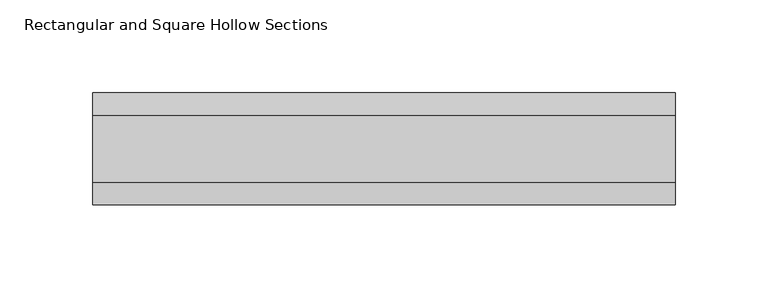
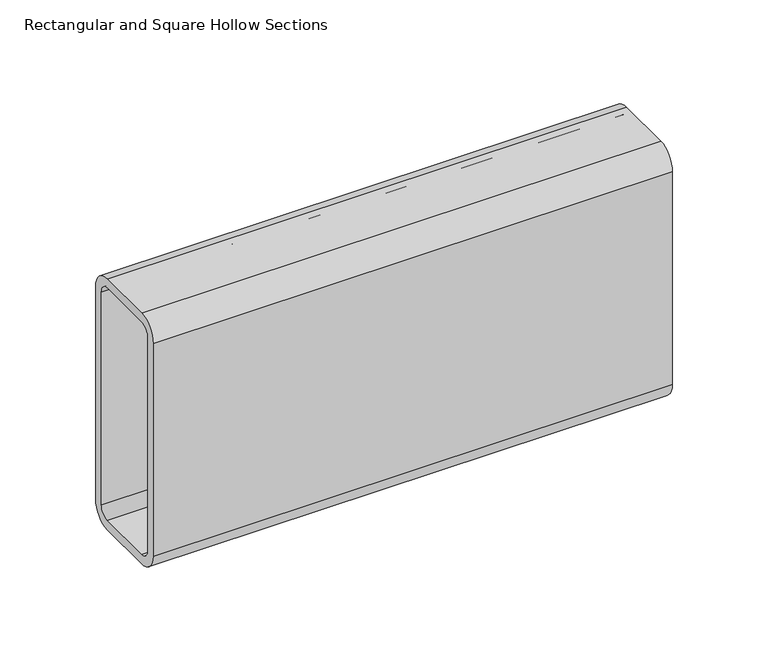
"""IFC4 building model written with IfcOpenShell, lengths in millimetres: beam geometry, Rectangular and Square Hollow Sections : TREC160x60x6."""

import ifcopenshell
import ifcopenshell.guid

model = None  # the IFC model being written
_history = None  # IfcOwnerHistory: only IFC2X3 demands one
_inside = {}  # id of a spatial element -> (the spatial element, [elements in it])
_under = {}  # id of a project, library or spatial element -> (it, [spatial elements below it])
_declared = {}  # id of a project -> (the project, [libraries it declares])
_typed = {}  # id of a type object -> (the type object, [elements of that type])
_made_of = {}  # id of a material, layer set ... -> (it, [elements and type objects made of it])


def new_model(schema):
    """Start an empty IFC model of exactly this schema.

    Asked for "IFC4X3", IfcOpenShell would pick the latest addendum, in which some entities
    have other attributes; the version numbers below select the first issue.
    IFC2X3 requires an IfcOwnerHistory on every rooted entity: one is made here for all.
    """
    global model, _history
    if schema == "IFC4X3":
        model = ifcopenshell.file(schema_version=(4, 3, 0, 0))
    else:
        model = ifcopenshell.file(schema=schema)
    _inside.clear()
    _under.clear()
    _declared.clear()
    _typed.clear()
    _made_of.clear()
    _history = None
    if model.schema == "IFC2X3":
        org = make("IfcOrganization", Name="unknown")
        user = make(
            "IfcPersonAndOrganization",
            ThePerson=make("IfcPerson", FamilyName="unknown"),
            TheOrganization=org,
        )
        app = make(
            "IfcApplication",
            ApplicationDeveloper=org,
            Version="unknown",
            ApplicationFullName="unknown",
            ApplicationIdentifier="unknown",
        )
        _history = make(
            "IfcOwnerHistory",
            OwningUser=user,
            OwningApplication=app,
            ChangeAction="ADDED",
            CreationDate=0,
        )
    return model


def make(cls, **values):
    """One entity of the class cls with the attributes given. An attribute that is None is left unset."""
    return model.create_entity(
        cls, **{name: value for name, value in values.items() if value is not None}
    )


def rooted(cls, **values):
    """An entity with a GlobalId (a new one), such as an element, a storey or a relation."""
    return make(cls, GlobalId=ifcopenshell.guid.new(), OwnerHistory=_history, **values)


def si_unit(unit_type, name, prefix=None):
    """IfcSIUnit, for example si_unit("LENGTHUNIT", "METRE", prefix="MILLI")."""
    return make("IfcSIUnit", UnitType=unit_type, Prefix=prefix, Name=name)


def assignment(units):
    """IfcUnitAssignment: the units of a project."""
    return None if units is None else make("IfcUnitAssignment", Units=units)


def point(xyz):
    """IfcCartesianPoint."""
    return None if xyz is None else make("IfcCartesianPoint", Coordinates=xyz)


def direction(xyz):
    """IfcDirection."""
    return None if xyz is None else make("IfcDirection", DirectionRatios=xyz)


def frame(location, z_axis=None, x_axis=None):
    """IfcAxis2Placement3D, a coordinate frame: its origin and axes. An axis left out is left unset."""
    return make(
        "IfcAxis2Placement3D",
        Location=point(location),
        Axis=direction(z_axis),
        RefDirection=direction(x_axis),
    )


def frame_2d(location, x_axis=None):
    """IfcAxis2Placement2D, a coordinate frame in the plane: its origin and x axis."""
    return make(
        "IfcAxis2Placement2D", Location=point(location), RefDirection=direction(x_axis)
    )


def origin():
    """The frame at (0, 0, 0) with its axes left unset."""
    return frame((0.0, 0.0, 0.0))


def place(relative_to, where):
    """IfcLocalPlacement: puts the frame where relative to a parent placement (None: the world)."""
    return make(
        "IfcLocalPlacement", PlacementRelTo=relative_to, RelativePlacement=where
    )


def context(
    kind, dimensions, precision=None, world=None, true_north=None, identifier=None
):
    """IfcGeometricRepresentationContext, for example the 3D "Model" context."""
    return make(
        "IfcGeometricRepresentationContext",
        ContextIdentifier=identifier,
        ContextType=kind,
        CoordinateSpaceDimension=dimensions,
        Precision=precision,
        WorldCoordinateSystem=world,
        TrueNorth=true_north,
    )


def project(units=None, contexts=None):
    """IfcProject with its units and contexts."""
    return rooted(
        "IfcProject",
        Name="project",
        RepresentationContexts=contexts,
        UnitsInContext=assignment(units),
    )


def spatial(cls, under=None, at=None, **own):
    """A site, building, storey or space (cls), placed at a placement, below another one or the project."""
    s = rooted(cls, ObjectPlacement=at, **own)
    if under is not None:
        _under.setdefault(under.id(), (under, []))[1].append(s)
    return s


def polyline(points):
    """IfcPolyline through the points."""
    return make("IfcPolyline", Points=[point(p) for p in points])


def circle_curve(where, radius):
    """IfcCircle in the frame where."""
    return make("IfcCircle", Position=where, Radius=radius)


def trimmed(basis, trim1, trim2, sense, master):
    """IfcTrimmedCurve: the piece of a basis curve between two trims."""
    return make(
        "IfcTrimmedCurve",
        BasisCurve=basis,
        Trim1=trim1,
        Trim2=trim2,
        SenseAgreement=sense,
        MasterRepresentation=master,
    )


def segment(curve, same_sense, transition):
    """IfcCompositeCurveSegment."""
    return make(
        "IfcCompositeCurveSegment",
        Transition=transition,
        SameSense=same_sense,
        ParentCurve=curve,
    )


def composite_curve(segments, self_intersect=None):
    """IfcCompositeCurve: segments joined end to end."""
    return make("IfcCompositeCurve", Segments=segments, SelfIntersect=self_intersect)


def outline(outer, holes=None, kind="AREA"):
    """IfcArbitraryClosedProfileDef: a profile drawn as a closed curve; with holes, ...WithVoids."""
    if holes is None:
        return make("IfcArbitraryClosedProfileDef", ProfileType=kind, OuterCurve=outer)
    return make(
        "IfcArbitraryProfileDefWithVoids",
        ProfileType=kind,
        OuterCurve=outer,
        InnerCurves=holes,
    )


def extrude(swept, where, along, depth):
    """IfcExtrudedAreaSolid: the profile swept, set in the frame where, extruded along a direction by depth."""
    return make(
        "IfcExtrudedAreaSolid",
        SweptArea=swept,
        Position=where,
        ExtrudedDirection=direction(along),
        Depth=depth,
    )


def shape(context_of_items, identifier, shape_type, items):
    """IfcShapeRepresentation: the items that make up one representation, for example the "Body"."""
    return make(
        "IfcShapeRepresentation",
        ContextOfItems=context_of_items,
        RepresentationIdentifier=identifier,
        RepresentationType=shape_type,
        Items=items,
    )


def source(mapping_origin, context_of_items, identifier, shape_type, items):
    """IfcRepresentationMap: a shape defined once, which mapped items show again and again."""
    return make(
        "IfcRepresentationMap",
        MappingOrigin=mapping_origin,
        MappedRepresentation=shape(context_of_items, identifier, shape_type, items),
    )


def transform(
    local_origin,
    x_axis=None,
    y_axis=None,
    z_axis=None,
    scale=None,
    scale2=None,
    scale3=None,
    uniform=True,
):
    """IfcCartesianTransformationOperator3D, or its non-uniform kind. x_axis, y_axis, z_axis: its Axis1, 2, 3."""
    if uniform:
        return make(
            "IfcCartesianTransformationOperator3D",
            Axis1=direction(x_axis),
            Axis2=direction(y_axis),
            LocalOrigin=point(local_origin),
            Scale=scale,
            Axis3=direction(z_axis),
        )
    return make(
        "IfcCartesianTransformationOperator3DnonUniform",
        Axis1=direction(x_axis),
        Axis2=direction(y_axis),
        LocalOrigin=point(local_origin),
        Scale=scale,
        Axis3=direction(z_axis),
        Scale2=scale2,
        Scale3=scale3,
    )


def mapped(mapping_source, mapping_target):
    """IfcMappedItem: shows the shape of a source again, moved by a transform."""
    return make(
        "IfcMappedItem", MappingSource=mapping_source, MappingTarget=mapping_target
    )


def made_of(thing, what):
    """Note that an element or type object is made of a material, layer set ...; save() writes the relation."""
    if what is not None:
        _made_of.setdefault(what.id(), (what, []))[1].append(thing)
    return thing


def element(
    cls,
    number,
    at=None,
    inside=None,
    cuts=None,
    type_object=None,
    material=None,
    context=None,
    identifier="Body",
    shape_type=None,
    held_by="IfcProductDefinitionShape",
    body=None,
    shapes=None,
    **own,
):
    """One element of the class cls, such as IfcWall. Its Tag is "e" and its number.

    at: its placement. inside: the storey or other place that contains it. cuts: it is an
    opening in that element (IfcRelVoidsElement). A single representation is given by context,
    identifier, shape_type and body (its items); several are given by shapes. held_by: the class
    of the entity that holds the representations. save() writes the other relations.
    """
    e = rooted(cls, Tag="e%d" % number, ObjectPlacement=at, **own)
    if body is not None:
        shapes = [shape(context, identifier, shape_type, body)]
    if shapes is not None:
        e.Representation = make(held_by, Representations=shapes)
    if inside is not None:
        _inside.setdefault(inside.id(), (inside, []))[1].append(e)
    if cuts is not None:
        rooted(
            "IfcRelVoidsElement", RelatingBuildingElement=cuts, RelatedOpeningElement=e
        )
    if type_object is not None:
        _typed.setdefault(type_object.id(), (type_object, []))[1].append(e)
    return made_of(e, material)


def aggregate(whole, parts):
    """IfcRelAggregates: a whole, such as a stair, and the parts it consists of."""
    return rooted("IfcRelAggregates", RelatingObject=whole, RelatedObjects=parts)


def save(model, path):
    """Write the relations noted so far, then the file.

    IfcRelAggregates (storeys below a building ...), IfcRelContainedInSpatialStructure (elements
    in a storey), IfcRelDefinesByType, IfcRelAssociatesMaterial and IfcRelDeclares: one each for
    every whole, place, type object, material and project.
    """
    for whole, parts in _under.values():
        aggregate(whole, parts)
    for where, things in _inside.values():
        rooted(
            "IfcRelContainedInSpatialStructure",
            RelatedElements=things,
            RelatingStructure=where,
        )
    for kind, things in _typed.values():
        rooted("IfcRelDefinesByType", RelatedObjects=things, RelatingType=kind)
    for what, things in _made_of.values():
        rooted("IfcRelAssociatesMaterial", RelatedObjects=things, RelatingMaterial=what)
    for by, libraries in _declared.values():
        rooted("IfcRelDeclares", RelatingContext=by, RelatedDefinitions=libraries)
    model.write(path)


def rectangular_and_square_hollow_sections_d00a390d(model_context):
    return source(origin(), model_context, "Body", "SweptSolid", [
        extrude(outline(composite_curve([segment(polyline([(30.0, 68.0), (30.0, -68.0)]), True, "CONTINUOUS"), segment(trimmed(circle_curve(frame_2d((18.0, -68.0)), 12.0), [point((30.0, -68.0))], [point((18.0, -80.0))], False, "CARTESIAN"), True, "CONTINUOUS"), segment(polyline([(18.0, -80.0), (-18.0, -80.0)]), True, "CONTINUOUS"), segment(trimmed(circle_curve(frame_2d((-18.0, -68.0)), 12.0), [point((-18.0, -80.0))], [point((-30.0, -68.0))], False, "CARTESIAN"), True, "CONTINUOUS"), segment(polyline([(-30.0, -68.0), (-30.0, 68.0)]), True, "CONTINUOUS"), segment(trimmed(circle_curve(frame_2d((-18.0, 68.0)), 12.0), [point((-30.0, 68.0))], [point((-18.0, 80.0))], False, "CARTESIAN"), True, "CONTINUOUS"), segment(polyline([(-18.0, 80.0), (18.0, 80.0)]), True, "CONTINUOUS"), segment(trimmed(circle_curve(frame_2d((18.0, 68.0)), 12.0), [point((18.0, 80.0))], [point((30.0, 68.0))], False, "CARTESIAN"), True, "CONTINUOUS")], self_intersect=False), holes=[composite_curve([segment(trimmed(circle_curve(frame_2d((-18.0, 68.0)), 6.0), [point((-18.0, 74.0))], [point((-24.0, 68.0))], True, "CARTESIAN"), True, "CONTINUOUS"), segment(polyline([(-24.0, 68.0), (-24.0, -68.0)]), True, "CONTINUOUS"), segment(trimmed(circle_curve(frame_2d((-18.0, -68.0)), 6.0), [point((-24.0, -68.0))], [point((-18.0, -74.0))], True, "CARTESIAN"), True, "CONTINUOUS"), segment(polyline([(-18.0, -74.0), (18.0, -74.0)]), True, "CONTINUOUS"), segment(trimmed(circle_curve(frame_2d((18.0, -68.0)), 6.0), [point((18.0, -74.0))], [point((24.0, -68.0))], True, "CARTESIAN"), True, "CONTINUOUS"), segment(polyline([(24.0, -68.0), (24.0, 68.0)]), True, "CONTINUOUS"), segment(trimmed(circle_curve(frame_2d((18.0, 68.0)), 6.0), [point((24.0, 68.0))], [point((18.0, 74.0))], True, "CARTESIAN"), True, "CONTINUOUS"), segment(polyline([(18.0, 74.0), (-18.0, 74.0)]), True, "CONTINUOUS")], self_intersect=False)]), frame((-150.0, 0.0, 0.0), z_axis=(1.0, 0.0, 0.0), x_axis=(0.0, 1.0, 0.0)), (0.0, 0.0, 1.0), 313.0),
    ])


if __name__ == "__main__":
    model = new_model("IFC4")
    model_context = context("Model", 3, world=origin())
    ifc_project = project(units=[si_unit("LENGTHUNIT", "METRE", prefix="MILLI")], contexts=[model_context])
    site = spatial("IfcSite", under=ifc_project)
    building = spatial("IfcBuilding", under=site)
    placement = place(None, origin())
    rectangular_and_square_hollow_sections_shape = rectangular_and_square_hollow_sections_d00a390d(model_context)
    element("IfcBeam", 1, ObjectType="Rectangular and Square Hollow Sections : TREC160x60x6", at=placement, inside=building, context=model_context, shape_type="MappedRepresentation", body=[
        mapped(rectangular_and_square_hollow_sections_shape, transform((0.0, 0.0, 0.0), x_axis=(1.0, 0.0, 0.0), y_axis=(0.0, 1.0, 0.0), z_axis=(0.0, 0.0, 1.0))),
    ])
    save(model, "model.ifc")
